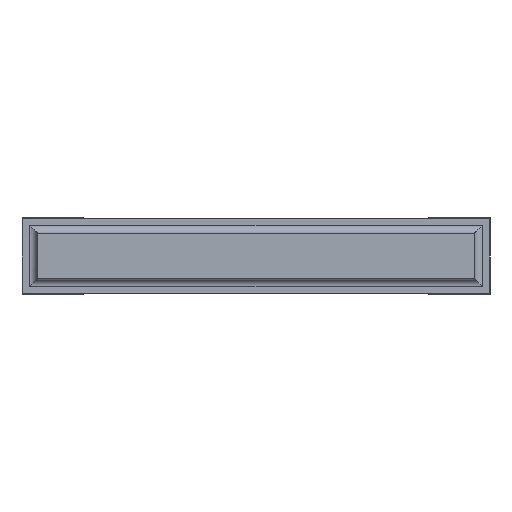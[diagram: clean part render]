
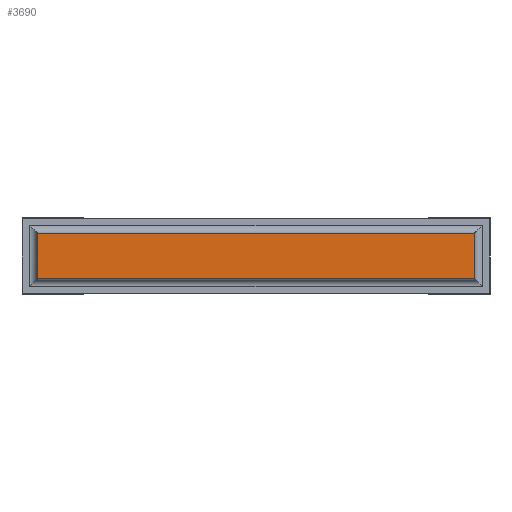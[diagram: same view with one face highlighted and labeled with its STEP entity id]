
A CAD part, front view. The second image highlights one B-rep face of the part: STEP entity #3690.
In plain terms, the highlighted planar face has unit normal (0, -1, 0).
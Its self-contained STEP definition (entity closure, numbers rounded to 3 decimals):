
#67=PLANE('',#3956);
#300=FACE_OUTER_BOUND('',#506,.T.);
#506=EDGE_LOOP('',(#2799,#2800,#2801,#2802));
#771=LINE('',#5481,#1239);
#777=LINE('',#5497,#1245);
#786=LINE('',#5514,#1254);
#787=LINE('',#5516,#1255);
#1239=VECTOR('',#4449,10.);
#1245=VECTOR('',#4463,10.);
#1254=VECTOR('',#4480,10.);
#1255=VECTOR('',#4483,10.);
#1707=VERTEX_POINT('',#5478);
#1708=VERTEX_POINT('',#5480);
#1713=VERTEX_POINT('',#5493);
#1714=VERTEX_POINT('',#5495);
#2117=EDGE_CURVE('',#1708,#1707,#771,.T.);
#2125=EDGE_CURVE('',#1714,#1713,#777,.T.);
#2134=EDGE_CURVE('',#1708,#1714,#786,.T.);
#2135=EDGE_CURVE('',#1713,#1707,#787,.T.);
#2799=ORIENTED_EDGE('',*,*,#2134,.F.);
#2800=ORIENTED_EDGE('',*,*,#2117,.T.);
#2801=ORIENTED_EDGE('',*,*,#2135,.F.);
#2802=ORIENTED_EDGE('',*,*,#2125,.F.);
#3690=ADVANCED_FACE('',(#300),#67,.T.);
#3956=AXIS2_PLACEMENT_3D('',#5515,#4481,#4482);
#4449=DIRECTION('',(0.,0.,-1.));
#4463=DIRECTION('',(0.,0.,-1.));
#4480=DIRECTION('',(1.,0.,0.));
#4481=DIRECTION('center_axis',(0.,-1.,0.));
#4482=DIRECTION('ref_axis',(0.,0.,-1.));
#4483=DIRECTION('',(-1.,0.,0.));
#5478=CARTESIAN_POINT('',(0.1,0.,0.1));
#5480=CARTESIAN_POINT('',(0.1,0.,0.4));
#5481=CARTESIAN_POINT('',(0.1,0.,0.4));
#5493=CARTESIAN_POINT('',(2.96,0.,0.1));
#5495=CARTESIAN_POINT('',(2.96,0.,0.4));
#5497=CARTESIAN_POINT('',(2.96,0.,0.4));
#5514=CARTESIAN_POINT('',(0.1,0.,0.4));
#5515=CARTESIAN_POINT('Origin',(2.96,0.,0.25));
#5516=CARTESIAN_POINT('',(2.96,0.,0.1));
